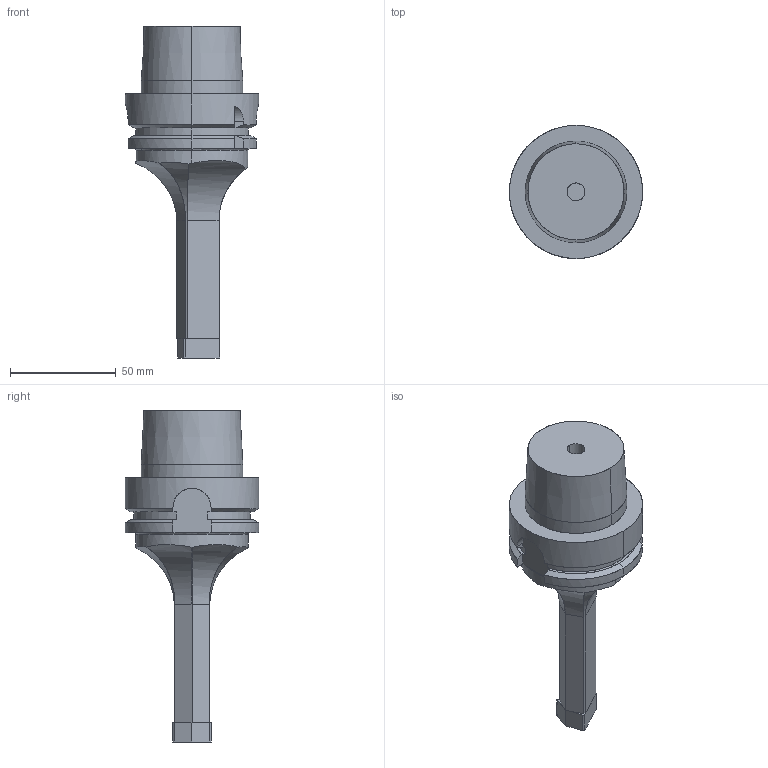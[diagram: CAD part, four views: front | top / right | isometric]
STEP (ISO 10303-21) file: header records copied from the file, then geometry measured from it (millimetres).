
FILE_DESCRIPTION(('OPEN MIND Model'),'2;1');
FILE_NAME('OPEN MIND Shape Model','2021-08-23T10:59:34',('Author'),( 'hyperCAD-S '),'hyperCAD-S STEP processor 6.6','hyperCAD-S 1.0' ,'Unknown');
FILE_SCHEMA(('AUTOMOTIVE_DESIGN { 1 0 10303 214 1 1 1 1 }'));
Length unit declared in the file: millimetre
Products named in the file (87): Product 2; Product 2.1; Product 2.2; Product 2.3; Product 2.4; Product 2.5; Product 2.6; Product 2.7; Product 2.8; Product 2.9; Product 2.10; Product 2.11; Product 2.12; Product 2.13; Product 2.14; Product 2.15; Product 2.16; Product 2.17; Product 2.18; Product 2.19; Product 2.20; Product 2.21; Product 2.22; Product 2.23; Product 2.24; Product 2.25; Product 2.26; Product 2.27; Product 2.28; Product 2.29; Product 2.30; Product 2.31; Product 2.32; Product 2.33; Product 2.34; Product 2.35; Product 2.36; Product 2.37; Product 2.38; Product 2.39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
Assembly tree (86 placements, depth 2):
  Product 2
    Product 2.1
    Product 2.2
    Product 2.3
    Product 2.4
    Product 2.5
    Product 2.6
    Product 2.7
    Product 2.8
    Product 2.9
    Product 2.10
    Product 2.11
    Product 2.12
    Product 2.13
    Product 2.14
    Product 2.15
    Product 2.16
    Product 2.17
    Product 2.18
    Product 2.19
    Product 2.20
    Product 2.21
    Product 2.22
    Product 2.23
    Product 2.24
    Product 2.25
    Product 2.26
    Product 2.27
    Product 2.28
    Product 2.29
    Product 2.30
    Product 2.31
    Product 2.32
    Product 2.33
    Product 2.34
    Product 2.35
    Product 2.36
    Product 2.37
    Product 2.38
    Product 2.39
    Product 2.40
    Product 2.41
    Product 2.42
    Product 2.43
    Product 2.44
    Product 2.45
    Product 2.46
    Product 2.47
    Product 2.48
    Product 2.49
    Product 2.50
    Product 2.51
    Product 2.52
    Product 2.53
    Product 2.54
    Product 2.55
    Product 2.56
    Product 2.57
    Product 2.58
    Product 2.59
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Bounding box: 63 x 63 x 157 mm (x, y, z)
Volume: 1776.5 mm3; surface area: 24578.4 mm2
Topology: 1 solids, 78 shells, 86 faces, 431 edges, 432 vertices
Faces by surface type: plane 38, cylinder 32, revolution 16
Entity records: 11653 total; most frequent: CARTESIAN_POINT 5662, B_SPLINE_CURVE_WITH_KNOTS 726, ORIENTED_EDGE 445, PCURVE 445, DEFINITIONAL_REPRESENTATION 445, EDGE_CURVE 424, SURFACE_CURVE 424, VERTEX_POINT 417
